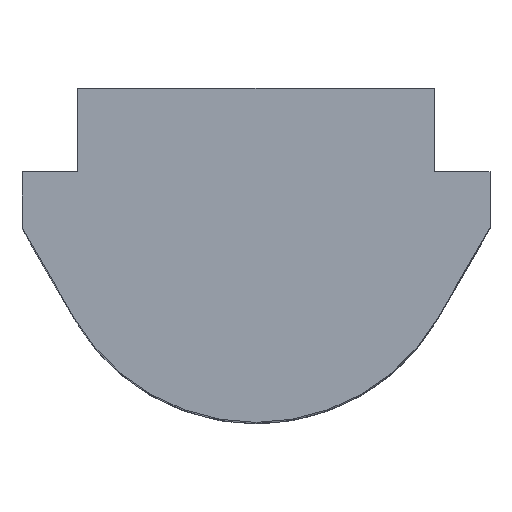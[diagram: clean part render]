
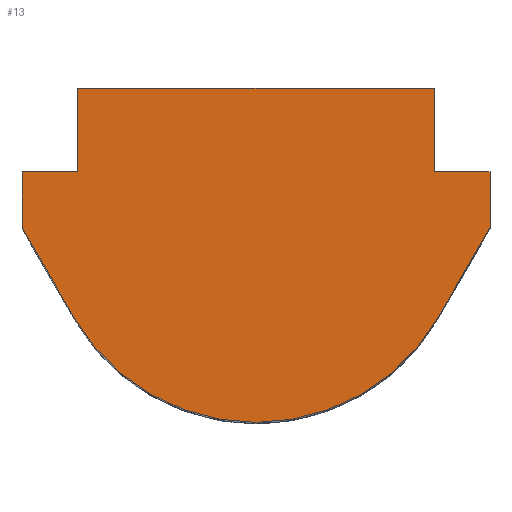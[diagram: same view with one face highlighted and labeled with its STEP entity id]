
A CAD part, top view. The second image highlights one B-rep face of the part: STEP entity #13.
In plain terms, the highlighted planar face has unit normal (0, 0, 1).
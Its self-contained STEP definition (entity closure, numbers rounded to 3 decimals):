
#5 = CARTESIAN_POINT ( 'NONE',  ( 4.2, -2.5, 7.5 ) ) ;
#9 = ORIENTED_EDGE ( 'NONE', *, *, #177, .T. ) ;
#13 = ADVANCED_FACE ( 'NONE', ( #582 ), #588, .T. ) ;
#15 = AXIS2_PLACEMENT_3D ( 'NONE', #206, #155, #362 ) ;
#19 = CARTESIAN_POINT ( 'NONE',  ( 0., -2.225, 7.5 ) ) ;
#37 = VECTOR ( 'NONE', #632, 1000. ) ;
#47 = ORIENTED_EDGE ( 'NONE', *, *, #503, .T. ) ;
#63 = EDGE_CURVE ( 'NONE', #197, #412, #442, .T. ) ;
#69 = DIRECTION ( 'NONE',  ( 1., 0., 0. ) ) ;
#77 = EDGE_LOOP ( 'NONE', ( #641, #47, #287, #571, #85, #113, #526, #515, #9, #486 ) ) ;
#85 = ORIENTED_EDGE ( 'NONE', *, *, #383, .T. ) ;
#90 = CARTESIAN_POINT ( 'NONE',  ( -3.269, -4.113, 7.5 ) ) ;
#97 = CARTESIAN_POINT ( 'NONE',  ( 4.2, -1.5, 7.5 ) ) ;
#98 = VERTEX_POINT ( 'NONE', #222 ) ;
#105 = AXIS2_PLACEMENT_3D ( 'NONE', #19, #321, #69 ) ;
#107 = CARTESIAN_POINT ( 'NONE',  ( -3.2, 0., 7.5 ) ) ;
#113 = ORIENTED_EDGE ( 'NONE', *, *, #63, .T. ) ;
#117 = VECTOR ( 'NONE', #354, 1000. ) ;
#124 = DIRECTION ( 'NONE',  ( 0., -1., 0. ) ) ;
#138 = DIRECTION ( 'NONE',  ( -1., 0., 0. ) ) ;
#139 = EDGE_CURVE ( 'NONE', #98, #564, #418, .T. ) ;
#146 = CARTESIAN_POINT ( 'NONE',  ( 3.2, 0., 7.5 ) ) ;
#154 = CARTESIAN_POINT ( 'NONE',  ( 3.2, -1.5, 7.5 ) ) ;
#155 = DIRECTION ( 'NONE',  ( 0., 0., 1. ) ) ;
#160 = CARTESIAN_POINT ( 'NONE',  ( 3.2, -1.5, 7.5 ) ) ;
#161 = EDGE_CURVE ( 'NONE', #638, #249, #610, .T. ) ;
#174 = VERTEX_POINT ( 'NONE', #558 ) ;
#177 = EDGE_CURVE ( 'NONE', #564, #174, #276, .T. ) ;
#190 = VERTEX_POINT ( 'NONE', #97 ) ;
#192 = DIRECTION ( 'NONE',  ( 0., 1., 0. ) ) ;
#195 = CARTESIAN_POINT ( 'NONE',  ( 4.2, -2.5, 7.5 ) ) ;
#197 = VERTEX_POINT ( 'NONE', #146 ) ;
#206 = CARTESIAN_POINT ( 'NONE',  ( 0., -2.225, 7.5 ) ) ;
#222 = CARTESIAN_POINT ( 'NONE',  ( -3.2, -1.5, 7.5 ) ) ;
#239 = CARTESIAN_POINT ( 'NONE',  ( 3.269, -4.113, 7.5 ) ) ;
#249 = VERTEX_POINT ( 'NONE', #239 ) ;
#253 = EDGE_CURVE ( 'NONE', #412, #98, #387, .T. ) ;
#260 = VECTOR ( 'NONE', #124, 1000. ) ;
#276 = LINE ( 'NONE', #613, #260 ) ;
#287 = ORIENTED_EDGE ( 'NONE', *, *, #551, .T. ) ;
#296 = VERTEX_POINT ( 'NONE', #154 ) ;
#321 = DIRECTION ( 'NONE',  ( 0., 0., 1. ) ) ;
#329 = VECTOR ( 'NONE', #497, 1000. ) ;
#335 = LINE ( 'NONE', #583, #502 ) ;
#354 = DIRECTION ( 'NONE',  ( 0., 1., 0. ) ) ;
#362 = DIRECTION ( 'NONE',  ( 1., 0., 0. ) ) ;
#379 = LINE ( 'NONE', #195, #471 ) ;
#383 = EDGE_CURVE ( 'NONE', #296, #197, #454, .T. ) ;
#386 = DIRECTION ( 'NONE',  ( 0.5, -0.866, 0. ) ) ;
#387 = LINE ( 'NONE', #580, #37 ) ;
#391 = VECTOR ( 'NONE', #420, 1000. ) ;
#412 = VERTEX_POINT ( 'NONE', #550 ) ;
#418 = LINE ( 'NONE', #465, #391 ) ;
#420 = DIRECTION ( 'NONE',  ( -1., 0., 0. ) ) ;
#436 = LINE ( 'NONE', #631, #562 ) ;
#439 = DIRECTION ( 'NONE',  ( 0.5, 0.866, 0. ) ) ;
#442 = LINE ( 'NONE', #107, #329 ) ;
#445 = VECTOR ( 'NONE', #439, 1000. ) ;
#454 = LINE ( 'NONE', #160, #117 ) ;
#456 = VERTEX_POINT ( 'NONE', #5 ) ;
#465 = CARTESIAN_POINT ( 'NONE',  ( -4.2, -1.5, 7.5 ) ) ;
#471 = VECTOR ( 'NONE', #192, 1000. ) ;
#474 = LINE ( 'NONE', #527, #445 ) ;
#486 = ORIENTED_EDGE ( 'NONE', *, *, #614, .T. ) ;
#497 = DIRECTION ( 'NONE',  ( -1., 0., 0. ) ) ;
#502 = VECTOR ( 'NONE', #138, 1000. ) ;
#503 = EDGE_CURVE ( 'NONE', #249, #456, #474, .T. ) ;
#515 = ORIENTED_EDGE ( 'NONE', *, *, #139, .T. ) ;
#526 = ORIENTED_EDGE ( 'NONE', *, *, #253, .T. ) ;
#527 = CARTESIAN_POINT ( 'NONE',  ( 3.269, -4.113, 7.5 ) ) ;
#550 = CARTESIAN_POINT ( 'NONE',  ( -3.2, 0., 7.5 ) ) ;
#551 = EDGE_CURVE ( 'NONE', #456, #190, #379, .T. ) ;
#558 = CARTESIAN_POINT ( 'NONE',  ( -4.2, -2.5, 7.5 ) ) ;
#562 = VECTOR ( 'NONE', #386, 1000. ) ;
#564 = VERTEX_POINT ( 'NONE', #627 ) ;
#571 = ORIENTED_EDGE ( 'NONE', *, *, #581, .T. ) ;
#580 = CARTESIAN_POINT ( 'NONE',  ( -3.2, -1.5, 7.5 ) ) ;
#581 = EDGE_CURVE ( 'NONE', #190, #296, #335, .T. ) ;
#582 = FACE_OUTER_BOUND ( 'NONE', #77, .T. ) ;
#583 = CARTESIAN_POINT ( 'NONE',  ( 4.2, -1.5, 7.5 ) ) ;
#588 = PLANE ( 'NONE',  #15 ) ;
#610 = CIRCLE ( 'NONE', #105, 3.775 ) ;
#613 = CARTESIAN_POINT ( 'NONE',  ( -4.2, -2.5, 7.5 ) ) ;
#614 = EDGE_CURVE ( 'NONE', #174, #638, #436, .T. ) ;
#627 = CARTESIAN_POINT ( 'NONE',  ( -4.2, -1.5, 7.5 ) ) ;
#631 = CARTESIAN_POINT ( 'NONE',  ( -3.269, -4.113, 7.5 ) ) ;
#632 = DIRECTION ( 'NONE',  ( 0., -1., 0. ) ) ;
#638 = VERTEX_POINT ( 'NONE', #90 ) ;
#641 = ORIENTED_EDGE ( 'NONE', *, *, #161, .T. ) ;
